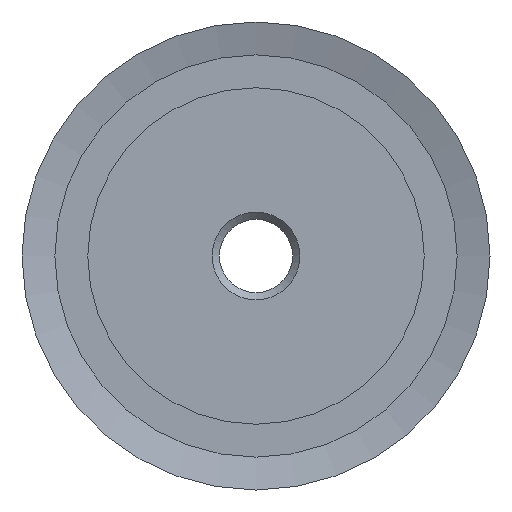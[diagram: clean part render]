
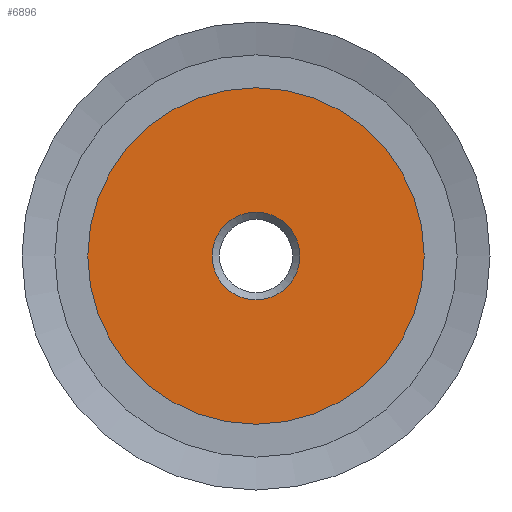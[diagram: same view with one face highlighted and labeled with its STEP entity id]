
A CAD part, left-side view. The second image highlights one B-rep face of the part: STEP entity #6896.
In plain terms, the highlighted planar face has unit normal (-1, 0, 0).
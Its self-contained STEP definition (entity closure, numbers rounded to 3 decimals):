
#38=FACE_BOUND('',#874,.T.);
#171=PLANE('',#7742);
#517=FACE_OUTER_BOUND('',#873,.T.);
#873=EDGE_LOOP('',(#5955));
#874=EDGE_LOOP('',(#5956));
#2516=CIRCLE('',#7741,3.);
#2517=CIRCLE('',#7743,11.5);
#3208=VERTEX_POINT('',#12009);
#3209=VERTEX_POINT('',#12013);
#4238=EDGE_CURVE('',#3208,#3208,#2516,.T.);
#4239=EDGE_CURVE('',#3209,#3209,#2517,.T.);
#5955=ORIENTED_EDGE('',*,*,#4239,.F.);
#5956=ORIENTED_EDGE('',*,*,#4238,.T.);
#6896=ADVANCED_FACE('',(#517,#38),#171,.T.);
#7741=AXIS2_PLACEMENT_3D('',#12011,#9899,#9900);
#7742=AXIS2_PLACEMENT_3D('',#12012,#9901,#9902);
#7743=AXIS2_PLACEMENT_3D('',#12014,#9903,#9904);
#9899=DIRECTION('center_axis',(1.,0.,0.));
#9900=DIRECTION('ref_axis',(0.,0.,-1.));
#9901=DIRECTION('center_axis',(-1.,0.,0.));
#9902=DIRECTION('ref_axis',(0.,0.,1.));
#9903=DIRECTION('center_axis',(1.,0.,0.));
#9904=DIRECTION('ref_axis',(0.,0.,-1.));
#12009=CARTESIAN_POINT('',(0.,-3.,0.));
#12011=CARTESIAN_POINT('Origin',(0.,0.,0.));
#12012=CARTESIAN_POINT('Origin',(0.,11.5,0.));
#12013=CARTESIAN_POINT('',(0.,-11.5,0.));
#12014=CARTESIAN_POINT('Origin',(0.,0.,0.));
